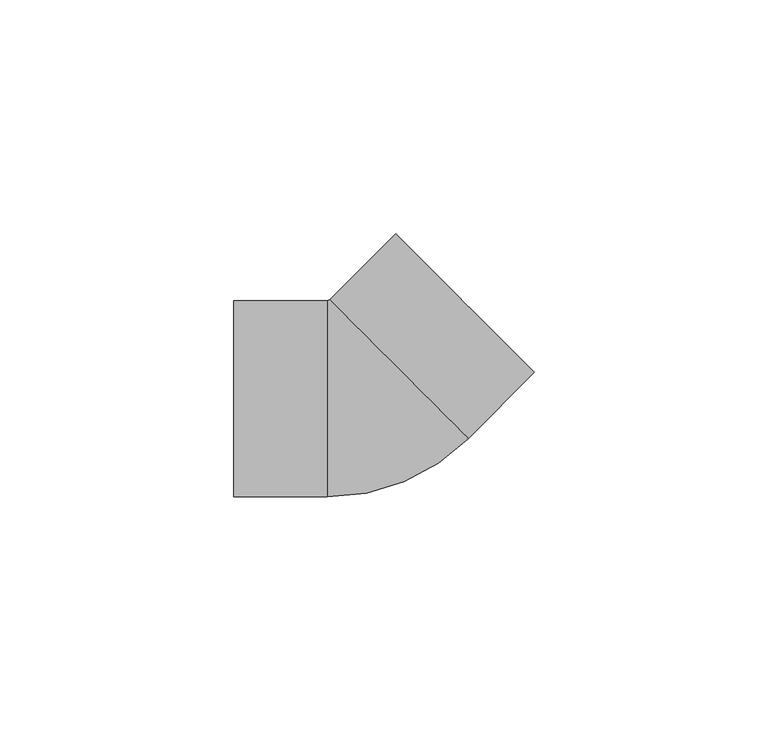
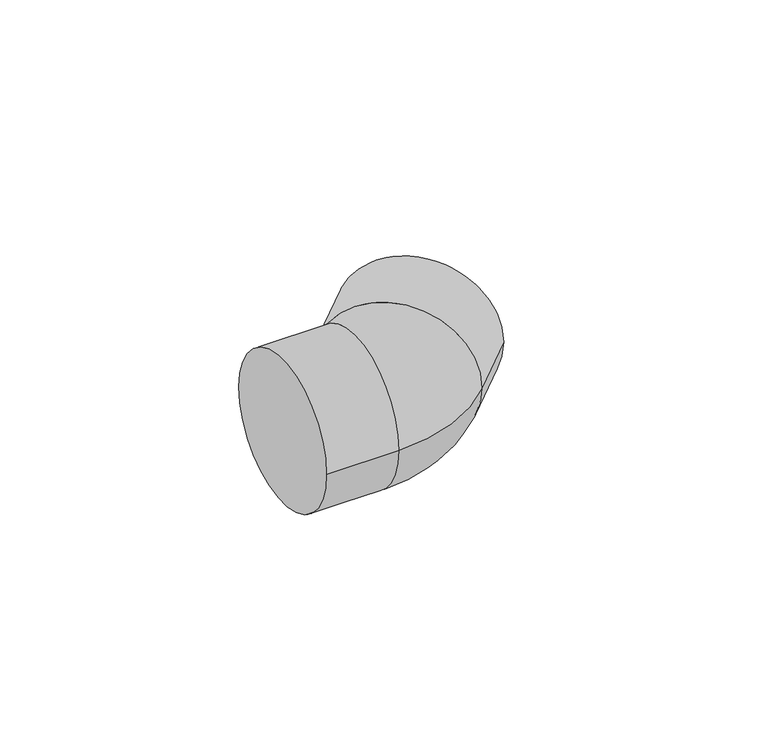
"""IFC4 building model written with IfcOpenShell, lengths in millimetres: pipe fitting geometry, NIRON RED termofusion codo : Estándar."""

from ifc_helpers import new_model, si_unit, point, frame, origin, place, context, project, spatial, circle_curve, ellipse_curve, trimmed, source, transform, mapped, element, save
from ifc_brep_helpers import plane_surface, cylinder_surface, revolved_surface, advanced_brep


def pipe_fitting_9ab5cd54(model_context):
    return source(origin(), model_context, "Body", "AdvancedBrep", [
        advanced_brep(
        [(-29.0, -21.0, 0.0), (-29.0, 21.0, 0.0), (-9.0, -21.0, 0.0), (-9.0, 21.0, 0.0), (-8.4852814, 21.2132034, 0.0), (21.2132034, -8.4852814, 0.0), (35.3553391, 5.6568542, 0.0), (5.6568542, 35.3553391, 0.0)],
        [
            (0, 1, circle_curve(frame((-29.0, 0.0, 0.0), z_axis=(-1.0, 0.0, 0.0), x_axis=(0.0, 1.0, 0.0)), 21.0)),
            (1, 0, circle_curve(frame((-29.0, 0.0, 0.0), z_axis=(-1.0, 0.0, 0.0), x_axis=(0.0, 1.0, 0.0)), 21.0)),
            (0, 2),
            (2, 3, circle_curve(frame((-9.0, 0.0, 0.0), z_axis=(-1.0, 0.0, 0.0), x_axis=(0.0, 1.0, 0.0)), 21.0)),
            (3, 1),
            (3, 2, circle_curve(frame((-9.0, 0.0, 0.0), z_axis=(-1.0, 0.0, 0.0), x_axis=(0.0, 1.0, 0.0)), 21.0)),
            (4, 3, circle_curve(frame((-9.0, 21.7279221, 0.0), z_axis=(0.0, 0.0, -1.0), x_axis=(0.0, -1.0, 0.0)), 0.7279221)),
            (2, 5, circle_curve(frame((-9.0, 21.7279221, 0.0), z_axis=(0.0, 0.0, 1.0), x_axis=(0.0, -1.0, 0.0)), 42.7279221)),
            (5, 4, circle_curve(frame((6.363961, 6.363961, 0.0), z_axis=(-0.7071067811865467, -0.7071067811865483, 0.0), x_axis=(-0.7071067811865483, 0.7071067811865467, 0.0)), 21.0)),
            (4, 5, circle_curve(frame((6.363961, 6.363961, 0.0), z_axis=(-0.7071067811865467, -0.7071067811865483, 0.0), x_axis=(-0.7071067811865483, 0.7071067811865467, 0.0)), 21.0)),
            (6, 7, circle_curve(frame((20.5060967, 20.5060967, 0.0), z_axis=(0.7071067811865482, 0.7071067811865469, 0.0), x_axis=(-0.7071067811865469, 0.7071067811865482, 0.0)), 21.0)),
            (7, 6, circle_curve(frame((20.5060967, 20.5060967, 0.0), z_axis=(0.7071067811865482, 0.7071067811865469, 0.0), x_axis=(-0.7071067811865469, 0.7071067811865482, 0.0)), 21.0)),
            (7, 4),
            (5, 6),
        ],
        [
            plane_surface(frame((-29.0, 0.0, 0.0), z_axis=(-1.0, 0.0, 0.0), x_axis=(0.0, 0.0, 1.0))),
            cylinder_surface(frame((-29.0, 0.0, 0.0), z_axis=(-1.0, 0.0, 0.0), x_axis=(0.0, 1.0, 0.0)), 21.0),
            revolved_surface(trimmed(ellipse_curve(frame((-9.0, 0.0, 0.0), z_axis=(-1.0, 0.0, 0.0), x_axis=(0.0, 1.0, 0.0)), 21.0, 21.0), [point((-9.0, -21.0, 0.0))], [point((-9.0, 21.0, 0.0))], True, "CARTESIAN"), (-9.0, 21.7279221, 0.0), (0.0, 0.0, 1.0)),
            revolved_surface(trimmed(ellipse_curve(frame((-9.0, 0.0, 0.0), z_axis=(-1.0, 0.0, 0.0), x_axis=(0.0, 1.0, 0.0)), 21.0, 21.0), [point((-9.0, 21.0, 0.0))], [point((-9.0, -21.0, 0.0))], True, "CARTESIAN"), (-9.0, 21.7279221, 0.0), (0.0, 0.0, 1.0)),
            plane_surface(frame((20.5060967, 20.5060967, 0.0), z_axis=(0.7071067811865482, 0.7071067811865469, 0.0), x_axis=(0.0, 0.0, 1.0))),
            cylinder_surface(frame((6.363961, 6.363961, 0.0), z_axis=(-0.7071067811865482, -0.7071067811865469, 0.0), x_axis=(-0.7071067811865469, 0.7071067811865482, 0.0)), 21.0),
        ],
        [
            (0, [[1, 2]]),
            (1, [[-1, 3, 4, 5]]),
            (1, [[-2, -5, 6, -3]]),
            (2, [[7, -4, 8, 9]]),
            (3, [[-7, 10, -8, -6]]),
            (4, [[11, 12]]),
            (5, [[-12, 13, -9, 14]]),
            (5, [[-11, -14, -10, -13]]),
        ],
    ),
    ])


if __name__ == "__main__":
    model = new_model("IFC4")
    model_context = context("Model", 3, world=origin())
    ifc_project = project(units=[si_unit("LENGTHUNIT", "METRE", prefix="MILLI")], contexts=[model_context])
    site = spatial("IfcSite", under=ifc_project)
    building = spatial("IfcBuilding", under=site)
    placement = place(None, origin())
    pipe_fitting_shape = pipe_fitting_9ab5cd54(model_context)
    element("IfcPipeFitting", 1, ObjectType="NIRON RED termofusion codo : Estándar", at=placement, inside=building, context=model_context, shape_type="MappedRepresentation", body=[
        mapped(pipe_fitting_shape, transform((0.0, 0.0, 0.0), x_axis=(1.0, 0.0, 0.0), y_axis=(0.0, 1.0, 0.0), z_axis=(0.0, 0.0, 1.0))),
    ])
    save(model, "model.ifc")
